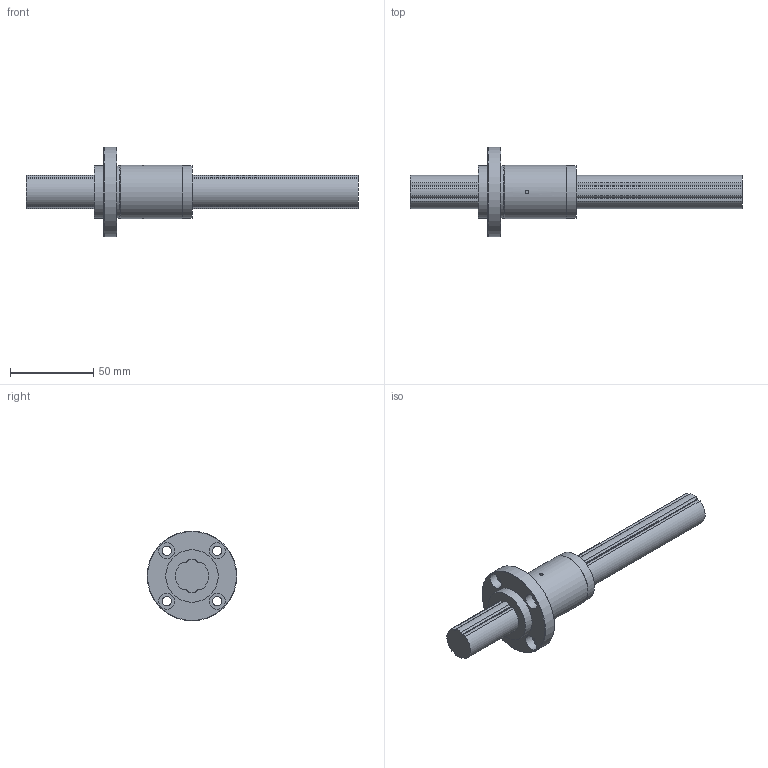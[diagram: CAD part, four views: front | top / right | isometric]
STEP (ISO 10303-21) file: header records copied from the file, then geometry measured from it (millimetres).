
FILE_DESCRIPTION(/* description */ ('STEP AP214'),/* implementation_level */ '2;1');
FILE_NAME(/* name */ 'LF20X+200L(00)',/* time_stamp */ '2024-09-05T14:47:22+02:00',/* author */ ('License CC BY-ND 4.0'),/* organization */ ('CADENAS'),/* preprocessor_version */ 'ST-DEVELOPER v19.3',/* originating_system */ 'PARTsolutions',/* authorisation */ ' ');
FILE_SCHEMA (('AUTOMOTIVE_DESIGN {1 0 10303 214 3 1 1}'));
Length unit declared in the file: millimetre
Products named in the file (3): LF20X+200L(00); 1LT20X 200Shaft; 1LF20X Cylindar
Assembly tree (2 placements, depth 2):
  LF20X+200L(00)
    1LT20X 200Shaft
    1LF20X Cylindar
Bounding box: 200 x 54 x 54 mm (x, y, z)
Volume: 100224.3 mm3; surface area: 28465.1 mm2
Topology: 2 solids, 2 shells, 77 faces, 196 edges, 129 vertices
Faces by surface type: cylinder 47, plane 27, cone 3
Full cylindrical faces by diameter (mm): 2 x2, 5.5 x4, 9.5 x4, 31.4 x1, 31.6 x2, 32 x1, 54 x1
Entity records: 2393 total; most frequent: DIRECTION 424, CARTESIAN_POINT 424, ORIENTED_EDGE 352, EDGE_CURVE 176, AXIS2_PLACEMENT_3D 172, VERTEX_POINT 128, EDGE_LOOP 116, FACE_BOUND 116
